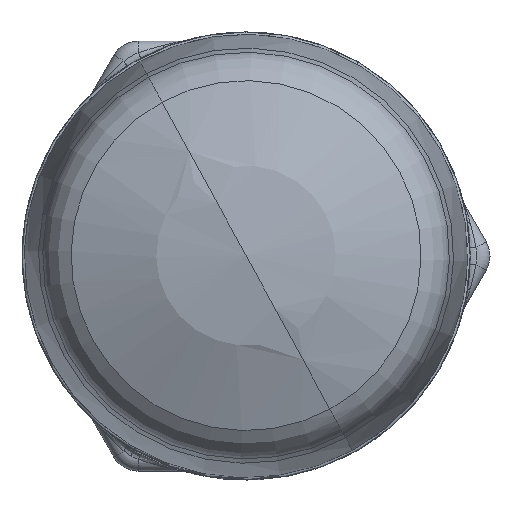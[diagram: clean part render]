
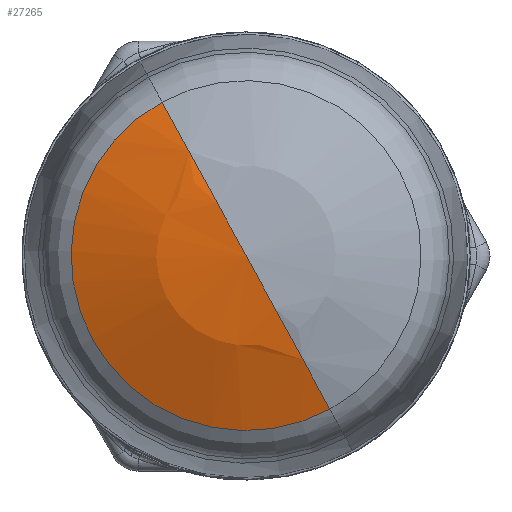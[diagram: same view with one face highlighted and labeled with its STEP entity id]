
A CAD part, top view. The second image highlights one B-rep face of the part: STEP entity #27265.
In plain terms, the highlighted spherical face has radius 120 mm.
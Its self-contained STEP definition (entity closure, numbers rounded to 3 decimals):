
#26145=AXIS2_PLACEMENT_3D('Circle Axis2P3D',#26143,#26144,$) ;
#27246=AXIS2_PLACEMENT_3D('Sphere Axis2P3D',#27243,#27244,#27245) ;
#27250=AXIS2_PLACEMENT_3D('Circle Axis2P3D',#27248,#27249,$) ;
#27257=AXIS2_PLACEMENT_3D('Circle Axis2P3D',#27255,#27256,$) ;
#26140=CARTESIAN_POINT('Vertex',(25.273,-46.262,49.826)) ;
#26143=CARTESIAN_POINT('Axis2P3D Location',(0.,0.,49.826)) ;
#26147=CARTESIAN_POINT('Vertex',(-25.273,46.262,49.826)) ;
#27243=CARTESIAN_POINT('Axis2P3D Location',(0.,0.,-57.975)) ;
#27248=CARTESIAN_POINT('Axis2P3D Location',(0.,0.,-57.975)) ;
#27252=CARTESIAN_POINT('Vertex',(0.,0.,62.025)) ;
#27255=CARTESIAN_POINT('Axis2P3D Location',(0.,0.,-57.975)) ;
#26144=DIRECTION('Axis2P3D Direction',(-0.,0.,1.)) ;
#27244=DIRECTION('Axis2P3D Direction',(-0.,0.,1.)) ;
#27245=DIRECTION('Axis2P3D XDirection',(0.479,-0.878,0.)) ;
#27249=DIRECTION('Axis2P3D Direction',(0.878,0.479,-0.)) ;
#27256=DIRECTION('Axis2P3D Direction',(-0.878,-0.479,0.)) ;
#27261=ORIENTED_EDGE('',*,*,#27254,.F.) ;
#27262=ORIENTED_EDGE('',*,*,#26149,.T.) ;
#27263=ORIENTED_EDGE('',*,*,#27259,.T.) ;
#27265=ADVANCED_FACE('PartBody',(#27264),#27247,.T.) ;
#26146=CIRCLE('generated circle',#26145,52.716) ;
#27251=CIRCLE('generated circle',#27250,120.) ;
#27258=CIRCLE('generated circle',#27257,120.) ;
#26149=EDGE_CURVE('',#26148,#26141,#26146,.T.) ;
#27254=EDGE_CURVE('',#26148,#27253,#27251,.T.) ;
#27259=EDGE_CURVE('',#26141,#27253,#27258,.T.) ;
#27260=EDGE_LOOP('',(#27261,#27262,#27263)) ;
#27264=FACE_OUTER_BOUND('',#27260,.T.) ;
#27247=SPHERICAL_SURFACE('',#27246,120.) ;
#26141=VERTEX_POINT('',#26140) ;
#26148=VERTEX_POINT('',#26147) ;
#27253=VERTEX_POINT('',#27252) ;
